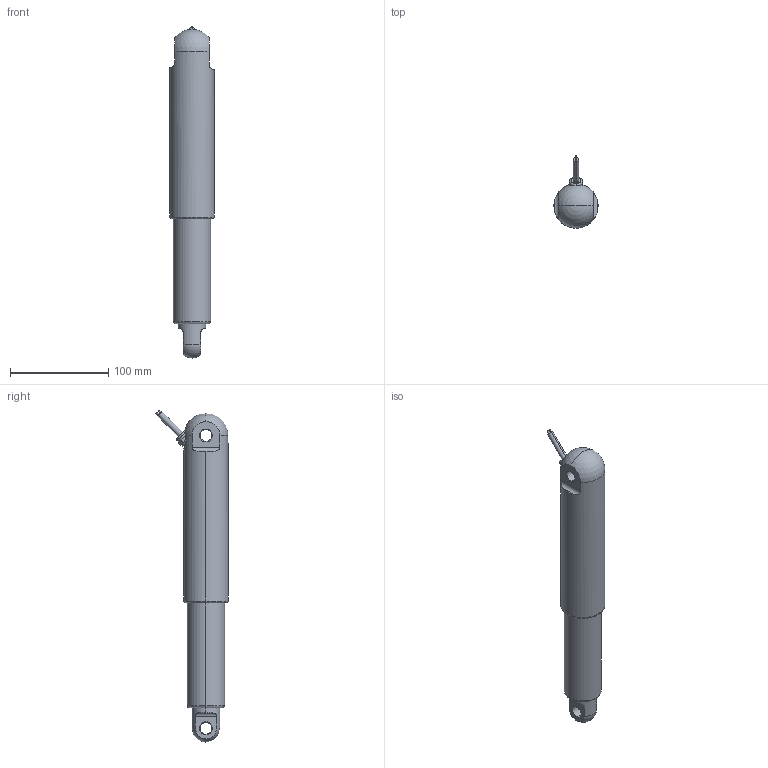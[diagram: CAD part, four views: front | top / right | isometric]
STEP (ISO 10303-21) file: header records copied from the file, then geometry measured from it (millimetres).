
FILE_DESCRIPTION((''),'2;1');
FILE_NAME('ST45-50MM-248','2016-12-15T',('Aklek'),(''),'PRO/ENGINEER BY PARAMETRIC TECHNOLOGY CORPORATION, 2010100','PRO/ENGINEER BY PARAMETRIC TECHNOLOGY CORPORATION, 2010100','');
FILE_SCHEMA(('CONFIG_CONTROL_DESIGN'));
Length unit declared in the file: millimetre
Products named in the file (1): ST45-50MM-248
Bounding box: 45 x 73.43 x 337.93 mm (x, y, z)
Volume: 419528.5 mm3; surface area: 47609.4 mm2
Topology: 1 solids, 2 shells, 93 faces, 229 edges, 146 vertices
Faces by surface type: cylinder 42, plane 33, cone 8, torus 6, sphere 4
Entity records: 2911 total; most frequent: CARTESIAN_POINT 597, DIRECTION 514, ORIENTED_EDGE 450, EDGE_CURVE 225, AXIS2_PLACEMENT_3D 208, VERTEX_POINT 146, CIRCLE 115, EDGE_LOOP 107
